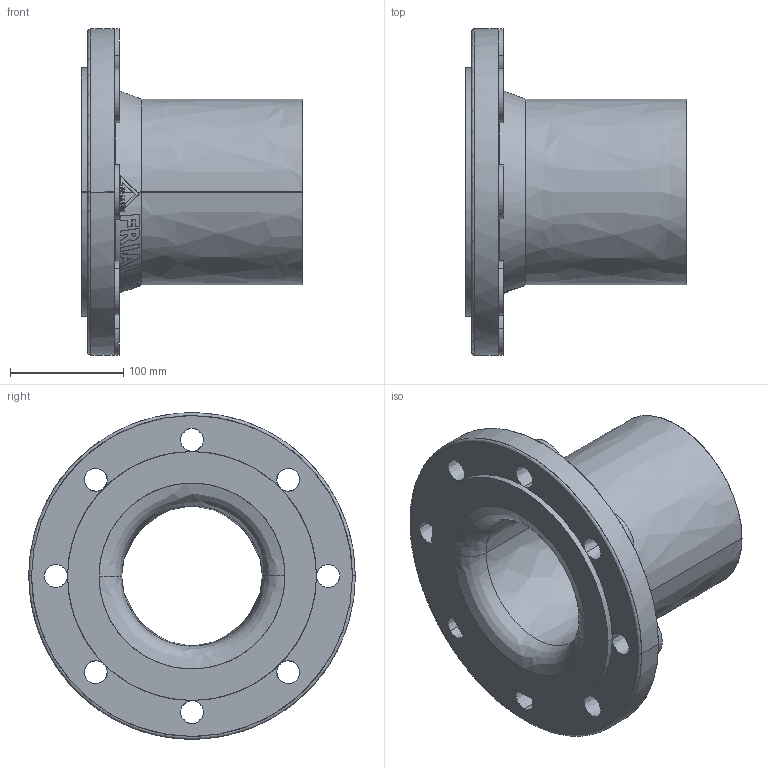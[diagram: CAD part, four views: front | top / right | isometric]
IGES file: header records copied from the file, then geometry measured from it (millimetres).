
Start section:  PTC IGES file: efl_d160_dn150_01.igs
Global section: file name: efl_d160_dn150_01.igs; native system: Pro/ENGINEER by Parametric Technology Corporation; preprocessor: 2011490; author: mtunjic; organization: Unknown; date: 20130819.134701; units: millimetre
Bounding box: 195 x 288 x 288 mm (x, y, z)
Surface area: 318242 mm2 (no closed solid volume)
Topology: 0 solids, 0 shells, 417 faces, 2030 edges, 2030 vertices
Faces by surface type: bspline 417
